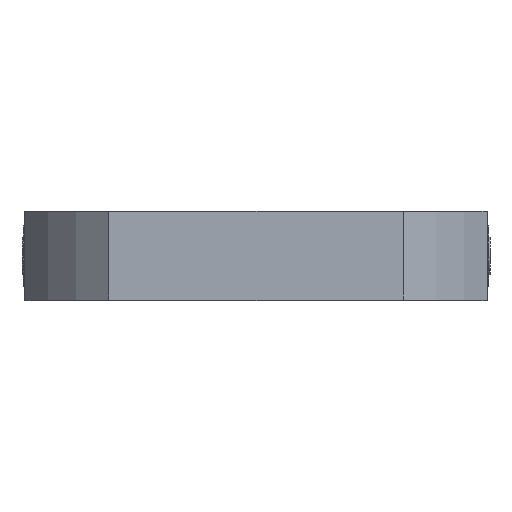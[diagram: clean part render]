
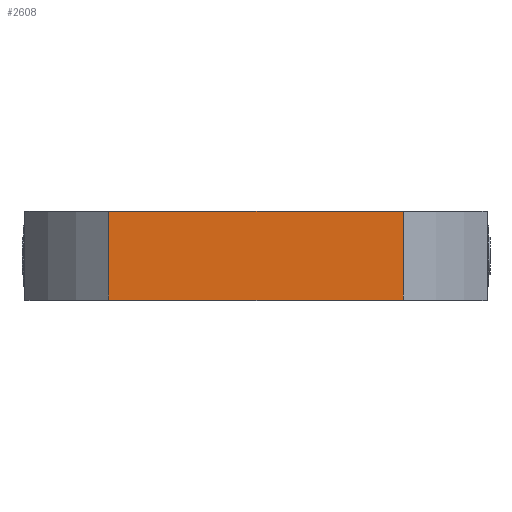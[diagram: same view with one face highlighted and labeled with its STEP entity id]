
A CAD part, top view. The second image highlights one B-rep face of the part: STEP entity #2608.
In plain terms, the highlighted planar face has unit normal (0, 0, 1).
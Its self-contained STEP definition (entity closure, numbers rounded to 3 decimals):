
#63 = VECTOR ( 'NONE', #3893, 1000. ) ;
#255 = VERTEX_POINT ( 'NONE', #4957 ) ;
#648 = VECTOR ( 'NONE', #1545, 1000. ) ;
#717 = ORIENTED_EDGE ( 'NONE', *, *, #7289, .T. ) ;
#1220 = LINE ( 'NONE', #2322, #6762 ) ;
#1373 = LINE ( 'NONE', #4645, #648 ) ;
#1445 = CARTESIAN_POINT ( 'NONE',  ( -78., 0., 75. ) ) ;
#1545 = DIRECTION ( 'NONE',  ( 1., 0., 0. ) ) ;
#2103 = DIRECTION ( 'NONE',  ( 1., 0., 0. ) ) ;
#2322 = CARTESIAN_POINT ( 'NONE',  ( -49.749, 0., 75. ) ) ;
#2443 = AXIS2_PLACEMENT_3D ( 'NONE', #6758, #6109, #6023 ) ;
#2608 = ADVANCED_FACE ( 'NONE', ( #2786 ), #5388, .F. ) ;
#2620 = LINE ( 'NONE', #1445, #8407 ) ;
#2721 = EDGE_CURVE ( 'NONE', #4458, #6797, #1220, .T. ) ;
#2727 = ORIENTED_EDGE ( 'NONE', *, *, #2721, .F. ) ;
#2786 = FACE_OUTER_BOUND ( 'NONE', #8693, .T. ) ;
#3048 = EDGE_CURVE ( 'NONE', #4149, #255, #3575, .T. ) ;
#3575 = LINE ( 'NONE', #8663, #63 ) ;
#3893 = DIRECTION ( 'NONE',  ( 0., -1., 0. ) ) ;
#4104 = CARTESIAN_POINT ( 'NONE',  ( -49.749, 0., 75. ) ) ;
#4149 = VERTEX_POINT ( 'NONE', #8151 ) ;
#4458 = VERTEX_POINT ( 'NONE', #4104 ) ;
#4645 = CARTESIAN_POINT ( 'NONE',  ( -78., 30., 75. ) ) ;
#4957 = CARTESIAN_POINT ( 'NONE',  ( 49.749, 0., 75. ) ) ;
#5158 = EDGE_CURVE ( 'NONE', #6797, #4149, #1373, .T. ) ;
#5388 = PLANE ( 'NONE',  #2443 ) ;
#6023 = DIRECTION ( 'NONE',  ( -1., 0., 0. ) ) ;
#6107 = CARTESIAN_POINT ( 'NONE',  ( -49.749, 30., 75. ) ) ;
#6109 = DIRECTION ( 'NONE',  ( 0., 0., -1. ) ) ;
#6308 = DIRECTION ( 'NONE',  ( 0., 1., 0. ) ) ;
#6407 = ORIENTED_EDGE ( 'NONE', *, *, #5158, .F. ) ;
#6758 = CARTESIAN_POINT ( 'NONE',  ( -78., 30., 75. ) ) ;
#6762 = VECTOR ( 'NONE', #6308, 1000. ) ;
#6786 = ORIENTED_EDGE ( 'NONE', *, *, #3048, .F. ) ;
#6797 = VERTEX_POINT ( 'NONE', #6107 ) ;
#7289 = EDGE_CURVE ( 'NONE', #4458, #255, #2620, .T. ) ;
#8151 = CARTESIAN_POINT ( 'NONE',  ( 49.749, 30., 75. ) ) ;
#8407 = VECTOR ( 'NONE', #2103, 1000. ) ;
#8663 = CARTESIAN_POINT ( 'NONE',  ( 49.749, 0., 75. ) ) ;
#8693 = EDGE_LOOP ( 'NONE', ( #2727, #717, #6786, #6407 ) ) ;
